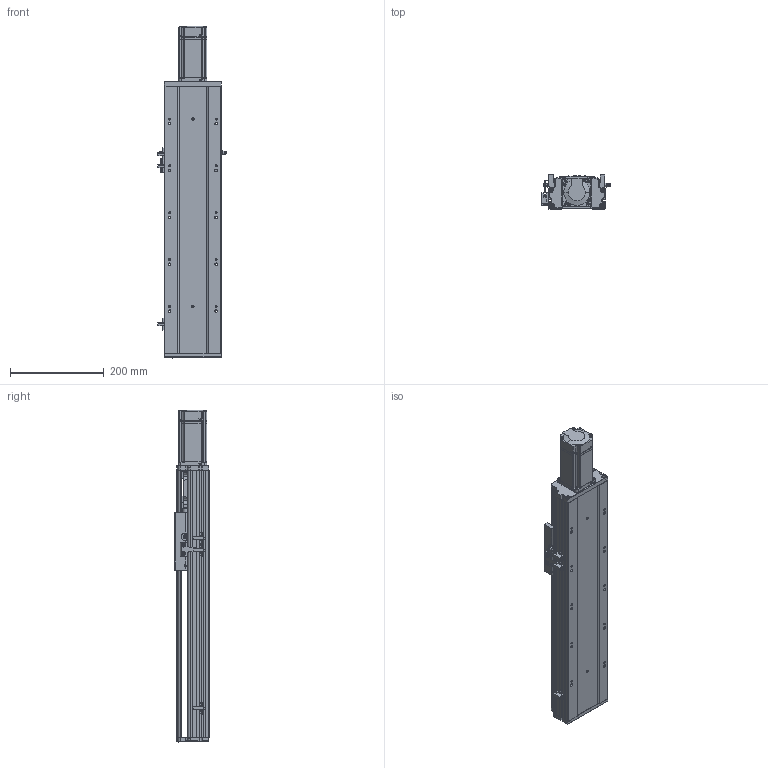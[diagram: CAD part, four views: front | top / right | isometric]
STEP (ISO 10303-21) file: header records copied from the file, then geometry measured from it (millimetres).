
FILE_DESCRIPTION (( 'STEP AP203' ), '1' );
FILE_NAME ('RYK120-L1610-S300-M40-C3-MK.STEP', '2026-03-07T09:55:07', ( '' ), ( '' ), 'SwSTEP 2.0', 'SolidWorks 2016', '' );
FILE_SCHEMA (( 'CONFIG_CONTROL_DESIGN' ));
Length unit declared in the file: millimetre
Products named in the file (18): RYK120-L1610-S300-M40-C3-MK; RYK120-300-MK-菁釱-啞; RY120外置感应片(140共用）; 滅袉蝶18-24; RY120QGB-1.8; RY120-16螺母油路-集中注油组合; 44-49-12-14; LMG15ST絳寢賑輸; 2.10.1.C521-V1.0RY120臏賑輸16蹟譫-啞-JZZY-NRL-L1899; RY120电机端支撑座-压铸加工-M5; 滅袉蝶18-10; RYK170-薊粣ん芵隴裔啣; RYK120-300-MK-奻裔啣-啞; 侂狟400W侜督萇儂; 覜茼ん672; 15; CB╱T 3762-1996[锥形润滑油嘴1-ZM10×1]_1-ZM10×1; RY120綴裔啣
Assembly tree (23 placements, depth 3):
  RYK120-L1610-S300-M40-C3-MK
    RYK120-300-MK-菁釱-啞
    RYK120-300-MK-奻裔啣-啞
    RY120綴裔啣
    滅袉蝶18-24  x2
    滅袉蝶18-10  x2
    覜茼ん672  x3
    RY120外置感应片(140共用）
    RY120QGB-1.8
    RY120-16螺母油路-集中注油组合
      2.10.1.C521-V1.0RY120臏賑輸16蹟譫-啞-JZZY-NRL-L1899
      CB╱T 3762-1996[锥形润滑油嘴1-ZM10×1]_1-ZM10×1  x2
    LMG15ST絳寢賑輸  x2
    RY120电机端支撑座-压铸加工-M5
    RYK170-薊粣ん芵隴裔啣
    44-49-12-14
    侂狟400W侜督萇儂
      15
Bounding box: 145.7 x 73 x 708.5 mm (x, y, z)
Volume: 2210863.1 mm3; surface area: 720949.8 mm2
Topology: 25 solids, 25 shells, 2884 faces, 7926 edges, 5089 vertices
Faces by surface type: plane 1387, cylinder 1079, cone 287, bspline 131
Entity records: 88067 total; most frequent: CARTESIAN_POINT 24436, ORIENTED_EDGE 13268, DIRECTION 12353, EDGE_CURVE 6634, VERTEX_POINT 4336, AXIS2_PLACEMENT_3D 4225, LINE 3903, VECTOR 3903
